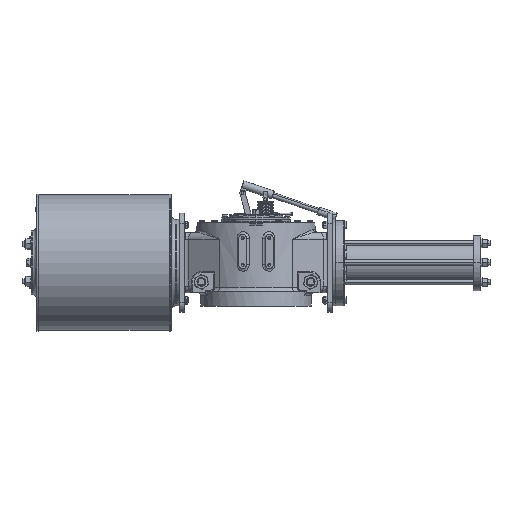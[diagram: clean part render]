
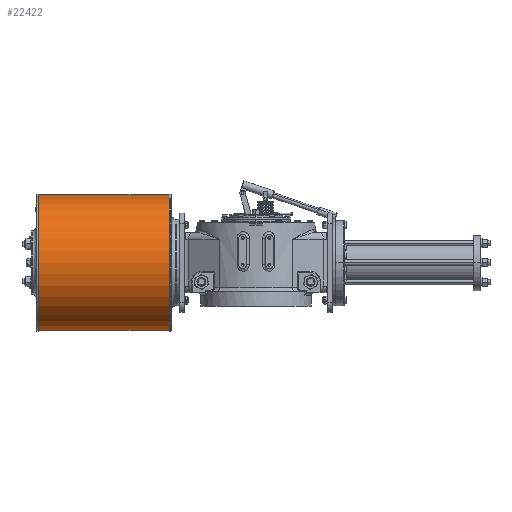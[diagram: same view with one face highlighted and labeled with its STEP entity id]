
A CAD part, front view. The second image highlights one B-rep face of the part: STEP entity #22422.
In plain terms, the highlighted cylindrical face has radius 254 mm (diameter 508 mm), a partial arc.
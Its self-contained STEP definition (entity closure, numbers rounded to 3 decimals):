
#1428 = AXIS2_PLACEMENT_3D ( 'NONE', #58814, #109377, #73489 ) ;
#4412 = DIRECTION ( 'NONE',  ( -1., 0., 0. ) ) ;
#4853 = VERTEX_POINT ( 'NONE', #39337 ) ;
#4976 = LINE ( 'NONE', #22923, #44135 ) ;
#5759 = DIRECTION ( 'NONE',  ( 0., 0., 1. ) ) ;
#6140 = DIRECTION ( 'NONE',  ( -1., 0., 0. ) ) ;
#6141 = CIRCLE ( 'NONE', #52316, 254. ) ;
#8600 = DIRECTION ( 'NONE',  ( 0., 0., 1. ) ) ;
#9521 = CARTESIAN_POINT ( 'NONE',  ( -325.5, 140., 367. ) ) ;
#12110 = CYLINDRICAL_SURFACE ( 'NONE', #1428, 254. ) ;
#13137 = CARTESIAN_POINT ( 'NONE',  ( -325.5, 140., 367. ) ) ;
#21241 = ORIENTED_EDGE ( 'NONE', *, *, #47115, .T. ) ;
#22422 = ADVANCED_FACE ( 'NONE', ( #32738 ), #12110, .T. ) ;
#22923 = CARTESIAN_POINT ( 'NONE',  ( -325.5, 140., -141. ) ) ;
#23624 = EDGE_CURVE ( 'NONE', #4853, #40777, #4976, .T. ) ;
#25776 = CARTESIAN_POINT ( 'NONE',  ( -815.5, 140., -141. ) ) ;
#28288 = CARTESIAN_POINT ( 'NONE',  ( -815.5, 140., 113. ) ) ;
#32738 = FACE_OUTER_BOUND ( 'NONE', #47215, .T. ) ;
#39337 = CARTESIAN_POINT ( 'NONE',  ( -325.5, 140., -141. ) ) ;
#39975 = VECTOR ( 'NONE', #6140, 1000. ) ;
#40777 = VERTEX_POINT ( 'NONE', #25776 ) ;
#41060 = ORIENTED_EDGE ( 'NONE', *, *, #23624, .F. ) ;
#41263 = VERTEX_POINT ( 'NONE', #75352 ) ;
#44135 = VECTOR ( 'NONE', #4412, 1000. ) ;
#47115 = EDGE_CURVE ( 'NONE', #41263, #40777, #6141, .T. ) ;
#47215 = EDGE_LOOP ( 'NONE', ( #41060, #89883, #75290, #21241 ) ) ;
#50129 = LINE ( 'NONE', #13137, #39975 ) ;
#52316 = AXIS2_PLACEMENT_3D ( 'NONE', #28288, #52599, #8600 ) ;
#52599 = DIRECTION ( 'NONE',  ( 1., 0., 0. ) ) ;
#55252 = VERTEX_POINT ( 'NONE', #9521 ) ;
#57614 = EDGE_CURVE ( 'NONE', #55252, #41263, #50129, .T. ) ;
#57761 = CIRCLE ( 'NONE', #59658, 254. ) ;
#58814 = CARTESIAN_POINT ( 'NONE',  ( -325.5, 140., 113. ) ) ;
#59658 = AXIS2_PLACEMENT_3D ( 'NONE', #92643, #85073, #5759 ) ;
#73489 = DIRECTION ( 'NONE',  ( 0., 0., 1. ) ) ;
#75290 = ORIENTED_EDGE ( 'NONE', *, *, #57614, .T. ) ;
#75352 = CARTESIAN_POINT ( 'NONE',  ( -815.5, 140., 367. ) ) ;
#85073 = DIRECTION ( 'NONE',  ( -1., 0., 0. ) ) ;
#85167 = EDGE_CURVE ( 'NONE', #4853, #55252, #57761, .T. ) ;
#89883 = ORIENTED_EDGE ( 'NONE', *, *, #85167, .T. ) ;
#92643 = CARTESIAN_POINT ( 'NONE',  ( -325.5, 140., 113. ) ) ;
#109377 = DIRECTION ( 'NONE',  ( -1., 0., 0. ) ) ;
